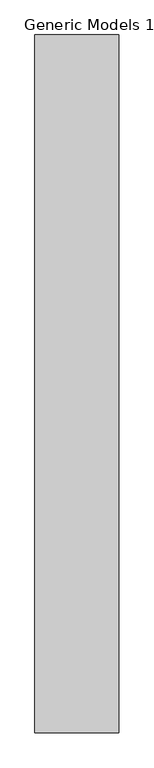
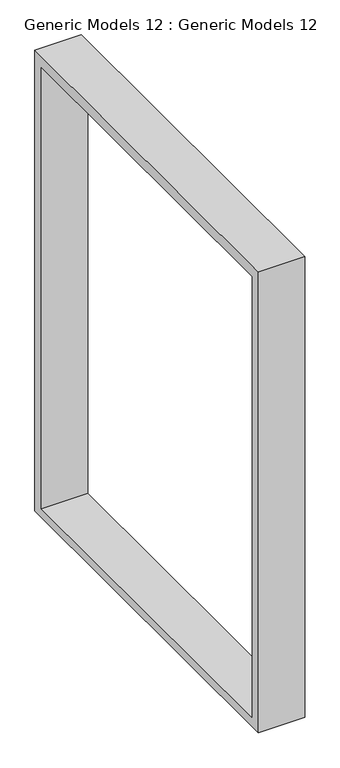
"""IFC4 building model written with IfcOpenShell, lengths in millimetres: proxy geometry, Generic Models 12 : Generic Models 12."""

from ifc_helpers import new_model, si_unit, frame, origin, place, context, project, spatial, polyline, outline, extrude, source, transform, mapped, element, save


def generic_models_12_generic_models_12_d067ef9f(model_context):
    return source(origin(), model_context, "Body", "SweptSolid", [
        extrude(outline(polyline([(8496.7661592, 5500.0), (8496.7661592, 3360.0), (6796.7661592, 3360.0), (6796.7661592, 5500.0), (8496.7661592, 5500.0)]), holes=[polyline([(8446.7661592, 5450.0), (6846.7661592, 5450.0), (6846.7661592, 3400.0), (8446.7661592, 3400.0), (8446.7661592, 5450.0)])]), frame((12400.0001123, 0.0, 0.0), z_axis=(1.0, 0.0, 0.0), x_axis=(0.0, 1.0, 0.0)), (0.0, 0.0, 1.0), 203.8816673),
    ])


if __name__ == "__main__":
    model = new_model("IFC4")
    model_context = context("Model", 3, world=origin())
    ifc_project = project(units=[si_unit("LENGTHUNIT", "METRE", prefix="MILLI")], contexts=[model_context])
    site = spatial("IfcSite", under=ifc_project)
    building = spatial("IfcBuilding", under=site)
    placement = place(None, origin())
    generic_models_12_generic_models_12_shape = generic_models_12_generic_models_12_d067ef9f(model_context)
    element("IfcBuildingElementProxy", 1, Name="Generic Models 12 : Generic Models 12", ObjectType="Generic Models 12 : Generic Models 12", at=placement, inside=building, context=model_context, shape_type="MappedRepresentation", body=[
        mapped(generic_models_12_generic_models_12_shape, transform((0.0, 0.0, 0.0), x_axis=(1.0, 0.0, 0.0), y_axis=(0.0, 1.0, 0.0), z_axis=(0.0, 0.0, 1.0))),
    ])
    save(model, "model.ifc")
